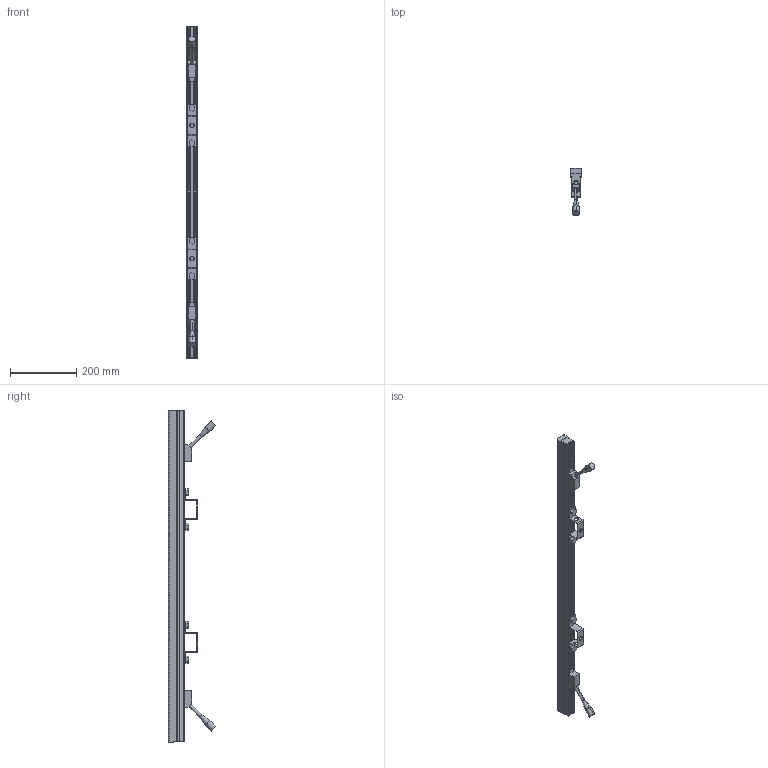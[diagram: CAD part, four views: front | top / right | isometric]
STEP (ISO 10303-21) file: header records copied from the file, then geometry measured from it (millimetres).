
FILE_DESCRIPTION((''),'2;1');
FILE_NAME('EPIX_LINE_10_IP-3D_ASM','2026-08-04T16:53:45',('00'),(''),'CREO PARAMETRIC BY PTC INC, 2018050','CREO PARAMETRIC BY PTC INC, 2018050','');
FILE_SCHEMA(('AUTOMOTIVE_DESIGN { 1 0 10303 214 1 1 1 1 }'));
Length unit declared in the file: millimetre
Products named in the file (6): 61109951-00_1; 32001519--M6-150001_2; CH-P100X1-IP000_ASM_1_ASM; 3D00_2; 000-CH-P100X1-IP_ASM_22_ASM; EPIX_LINE_10_IP-3D_ASM
Assembly tree (7 placements, depth 4):
  EPIX_LINE_10_IP-3D_ASM
    000-CH-P100X1-IP_ASM_22_ASM
      CH-P100X1-IP000_ASM_1_ASM  x2
        61109951-00_1
        32001519--M6-150001_2
      3D00_2
Bounding box: 31.2 x 142.77 x 1000.13 mm (x, y, z)
Volume: 1382508 mm3; surface area: 262440.3 mm2
Topology: 7 solids, 7 shells, 291 faces, 730 edges, 468 vertices
Faces by surface type: plane 213, cylinder 74, cone 4
Entity records: 8118 total; most frequent: CARTESIAN_POINT 1124, DIRECTION 1069, ORIENTED_EDGE 1056, PRESENTATION_STYLE_ASSIGNMENT 531, STYLED_ITEM 531, CURVE_STYLE 528, EDGE_CURVE 528, VECTOR 423
